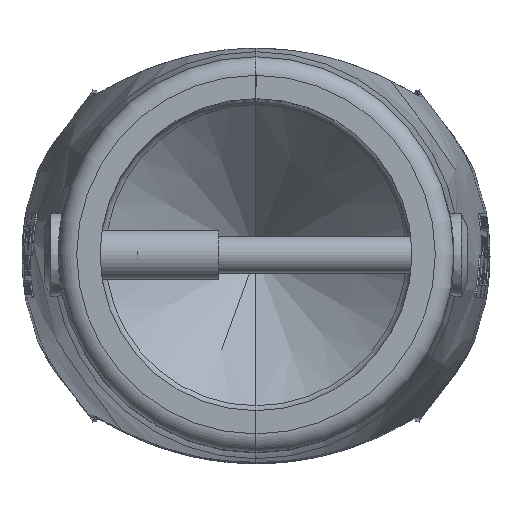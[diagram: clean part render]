
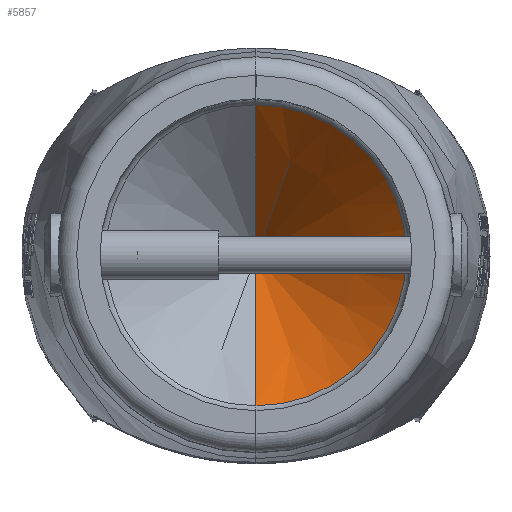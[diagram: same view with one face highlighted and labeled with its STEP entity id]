
A CAD part, top view. The second image highlights one B-rep face of the part: STEP entity #5857.
In plain terms, the highlighted conical face has half-angle 45 degrees and reference radius 12.55 mm.
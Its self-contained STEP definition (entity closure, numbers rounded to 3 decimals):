
#51=CONICAL_SURFACE('',#6296,12.55,0.785);
#680=FACE_OUTER_BOUND('',#1025,.T.);
#1025=EDGE_LOOP('',(#5358,#5359,#5360));
#1251=CIRCLE('',#6295,24.221);
#1551=LINE('',#16645,#1876);
#1552=LINE('',#16647,#1877);
#1876=VECTOR('',#7204,10.);
#1877=VECTOR('',#7205,10.);
#2816=VERTEX_POINT('',#16642);
#2817=VERTEX_POINT('',#16644);
#2818=VERTEX_POINT('',#16646);
#3661=EDGE_CURVE('',#2816,#2817,#1551,.T.);
#3662=EDGE_CURVE('',#2817,#2818,#1552,.T.);
#3691=EDGE_CURVE('',#2818,#2816,#1251,.T.);
#5358=ORIENTED_EDGE('',*,*,#3661,.F.);
#5359=ORIENTED_EDGE('',*,*,#3691,.F.);
#5360=ORIENTED_EDGE('',*,*,#3662,.F.);
#5857=ADVANCED_FACE('',(#680),#51,.F.);
#6295=AXIS2_PLACEMENT_3D('',#65346,#7242,#7243);
#6296=AXIS2_PLACEMENT_3D('',#65347,#7244,#7245);
#7204=DIRECTION('',(0.,0.707,-0.707));
#7205=DIRECTION('',(0.,0.707,0.707));
#7242=DIRECTION('center_axis',(0.,0.,-1.));
#7243=DIRECTION('ref_axis',(0.,1.,0.));
#7244=DIRECTION('center_axis',(0.,0.,1.));
#7245=DIRECTION('ref_axis',(0.,-1.,0.));
#16642=CARTESIAN_POINT('',(0.,-24.221,68.769));
#16644=CARTESIAN_POINT('',(0.,0.,44.548));
#16645=CARTESIAN_POINT('',(0.,-12.55,57.098));
#16646=CARTESIAN_POINT('',(0.,24.221,68.769));
#16647=CARTESIAN_POINT('',(0.,12.55,57.098));
#65346=CARTESIAN_POINT('Origin',(0.,0.,
68.769));
#65347=CARTESIAN_POINT('Origin',(0.,0.,57.098));
